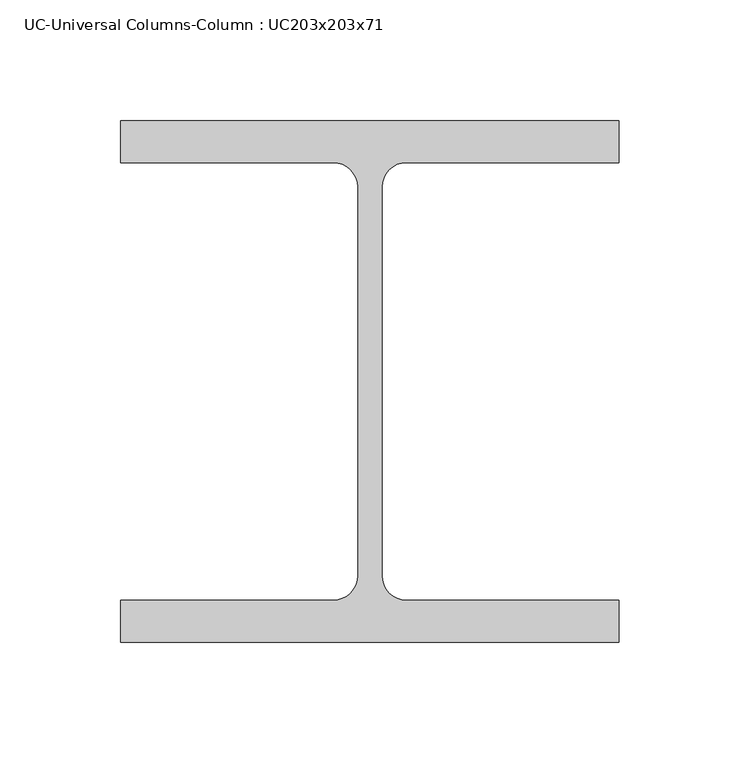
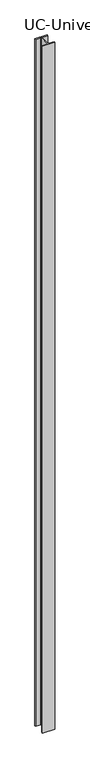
"""IFC4 building model written with IfcOpenShell, lengths in millimetres: column geometry, UC-Universal Columns-Column : UC203x203x71."""

import ifcopenshell
import ifcopenshell.guid

model = None  # the IFC model being written
_history = None  # IfcOwnerHistory: only IFC2X3 demands one
_inside = {}  # id of a spatial element -> (the spatial element, [elements in it])
_under = {}  # id of a project, library or spatial element -> (it, [spatial elements below it])
_declared = {}  # id of a project -> (the project, [libraries it declares])
_typed = {}  # id of a type object -> (the type object, [elements of that type])
_made_of = {}  # id of a material, layer set ... -> (it, [elements and type objects made of it])


def new_model(schema):
    """Start an empty IFC model of exactly this schema.

    Asked for "IFC4X3", IfcOpenShell would pick the latest addendum, in which some entities
    have other attributes; the version numbers below select the first issue.
    IFC2X3 requires an IfcOwnerHistory on every rooted entity: one is made here for all.
    """
    global model, _history
    if schema == "IFC4X3":
        model = ifcopenshell.file(schema_version=(4, 3, 0, 0))
    else:
        model = ifcopenshell.file(schema=schema)
    _inside.clear()
    _under.clear()
    _declared.clear()
    _typed.clear()
    _made_of.clear()
    _history = None
    if model.schema == "IFC2X3":
        org = make("IfcOrganization", Name="unknown")
        user = make(
            "IfcPersonAndOrganization",
            ThePerson=make("IfcPerson", FamilyName="unknown"),
            TheOrganization=org,
        )
        app = make(
            "IfcApplication",
            ApplicationDeveloper=org,
            Version="unknown",
            ApplicationFullName="unknown",
            ApplicationIdentifier="unknown",
        )
        _history = make(
            "IfcOwnerHistory",
            OwningUser=user,
            OwningApplication=app,
            ChangeAction="ADDED",
            CreationDate=0,
        )
    return model


def make(cls, **values):
    """One entity of the class cls with the attributes given. An attribute that is None is left unset."""
    return model.create_entity(
        cls, **{name: value for name, value in values.items() if value is not None}
    )


def rooted(cls, **values):
    """An entity with a GlobalId (a new one), such as an element, a storey or a relation."""
    return make(cls, GlobalId=ifcopenshell.guid.new(), OwnerHistory=_history, **values)


def si_unit(unit_type, name, prefix=None):
    """IfcSIUnit, for example si_unit("LENGTHUNIT", "METRE", prefix="MILLI")."""
    return make("IfcSIUnit", UnitType=unit_type, Prefix=prefix, Name=name)


def assignment(units):
    """IfcUnitAssignment: the units of a project."""
    return None if units is None else make("IfcUnitAssignment", Units=units)


def point(xyz):
    """IfcCartesianPoint."""
    return None if xyz is None else make("IfcCartesianPoint", Coordinates=xyz)


def direction(xyz):
    """IfcDirection."""
    return None if xyz is None else make("IfcDirection", DirectionRatios=xyz)


def frame(location, z_axis=None, x_axis=None):
    """IfcAxis2Placement3D, a coordinate frame: its origin and axes. An axis left out is left unset."""
    return make(
        "IfcAxis2Placement3D",
        Location=point(location),
        Axis=direction(z_axis),
        RefDirection=direction(x_axis),
    )


def frame_2d(location, x_axis=None):
    """IfcAxis2Placement2D, a coordinate frame in the plane: its origin and x axis."""
    return make(
        "IfcAxis2Placement2D", Location=point(location), RefDirection=direction(x_axis)
    )


def origin():
    """The frame at (0, 0, 0) with its axes left unset."""
    return frame((0.0, 0.0, 0.0))


def place(relative_to, where):
    """IfcLocalPlacement: puts the frame where relative to a parent placement (None: the world)."""
    return make(
        "IfcLocalPlacement", PlacementRelTo=relative_to, RelativePlacement=where
    )


def context(
    kind, dimensions, precision=None, world=None, true_north=None, identifier=None
):
    """IfcGeometricRepresentationContext, for example the 3D "Model" context."""
    return make(
        "IfcGeometricRepresentationContext",
        ContextIdentifier=identifier,
        ContextType=kind,
        CoordinateSpaceDimension=dimensions,
        Precision=precision,
        WorldCoordinateSystem=world,
        TrueNorth=true_north,
    )


def project(units=None, contexts=None):
    """IfcProject with its units and contexts."""
    return rooted(
        "IfcProject",
        Name="project",
        RepresentationContexts=contexts,
        UnitsInContext=assignment(units),
    )


def spatial(cls, under=None, at=None, **own):
    """A site, building, storey or space (cls), placed at a placement, below another one or the project."""
    s = rooted(cls, ObjectPlacement=at, **own)
    if under is not None:
        _under.setdefault(under.id(), (under, []))[1].append(s)
    return s


def polyline(points):
    """IfcPolyline through the points."""
    return make("IfcPolyline", Points=[point(p) for p in points])


def circle_curve(where, radius):
    """IfcCircle in the frame where."""
    return make("IfcCircle", Position=where, Radius=radius)


def trimmed(basis, trim1, trim2, sense, master):
    """IfcTrimmedCurve: the piece of a basis curve between two trims."""
    return make(
        "IfcTrimmedCurve",
        BasisCurve=basis,
        Trim1=trim1,
        Trim2=trim2,
        SenseAgreement=sense,
        MasterRepresentation=master,
    )


def segment(curve, same_sense, transition):
    """IfcCompositeCurveSegment."""
    return make(
        "IfcCompositeCurveSegment",
        Transition=transition,
        SameSense=same_sense,
        ParentCurve=curve,
    )


def composite_curve(segments, self_intersect=None):
    """IfcCompositeCurve: segments joined end to end."""
    return make("IfcCompositeCurve", Segments=segments, SelfIntersect=self_intersect)


def outline(outer, holes=None, kind="AREA"):
    """IfcArbitraryClosedProfileDef: a profile drawn as a closed curve; with holes, ...WithVoids."""
    if holes is None:
        return make("IfcArbitraryClosedProfileDef", ProfileType=kind, OuterCurve=outer)
    return make(
        "IfcArbitraryProfileDefWithVoids",
        ProfileType=kind,
        OuterCurve=outer,
        InnerCurves=holes,
    )


def extrude(swept, where, along, depth):
    """IfcExtrudedAreaSolid: the profile swept, set in the frame where, extruded along a direction by depth."""
    return make(
        "IfcExtrudedAreaSolid",
        SweptArea=swept,
        Position=where,
        ExtrudedDirection=direction(along),
        Depth=depth,
    )


def shape(context_of_items, identifier, shape_type, items):
    """IfcShapeRepresentation: the items that make up one representation, for example the "Body"."""
    return make(
        "IfcShapeRepresentation",
        ContextOfItems=context_of_items,
        RepresentationIdentifier=identifier,
        RepresentationType=shape_type,
        Items=items,
    )


def source(mapping_origin, context_of_items, identifier, shape_type, items):
    """IfcRepresentationMap: a shape defined once, which mapped items show again and again."""
    return make(
        "IfcRepresentationMap",
        MappingOrigin=mapping_origin,
        MappedRepresentation=shape(context_of_items, identifier, shape_type, items),
    )


def transform(
    local_origin,
    x_axis=None,
    y_axis=None,
    z_axis=None,
    scale=None,
    scale2=None,
    scale3=None,
    uniform=True,
):
    """IfcCartesianTransformationOperator3D, or its non-uniform kind. x_axis, y_axis, z_axis: its Axis1, 2, 3."""
    if uniform:
        return make(
            "IfcCartesianTransformationOperator3D",
            Axis1=direction(x_axis),
            Axis2=direction(y_axis),
            LocalOrigin=point(local_origin),
            Scale=scale,
            Axis3=direction(z_axis),
        )
    return make(
        "IfcCartesianTransformationOperator3DnonUniform",
        Axis1=direction(x_axis),
        Axis2=direction(y_axis),
        LocalOrigin=point(local_origin),
        Scale=scale,
        Axis3=direction(z_axis),
        Scale2=scale2,
        Scale3=scale3,
    )


def mapped(mapping_source, mapping_target):
    """IfcMappedItem: shows the shape of a source again, moved by a transform."""
    return make(
        "IfcMappedItem", MappingSource=mapping_source, MappingTarget=mapping_target
    )


def made_of(thing, what):
    """Note that an element or type object is made of a material, layer set ...; save() writes the relation."""
    if what is not None:
        _made_of.setdefault(what.id(), (what, []))[1].append(thing)
    return thing


def element(
    cls,
    number,
    at=None,
    inside=None,
    cuts=None,
    type_object=None,
    material=None,
    context=None,
    identifier="Body",
    shape_type=None,
    held_by="IfcProductDefinitionShape",
    body=None,
    shapes=None,
    **own,
):
    """One element of the class cls, such as IfcWall. Its Tag is "e" and its number.

    at: its placement. inside: the storey or other place that contains it. cuts: it is an
    opening in that element (IfcRelVoidsElement). A single representation is given by context,
    identifier, shape_type and body (its items); several are given by shapes. held_by: the class
    of the entity that holds the representations. save() writes the other relations.
    """
    e = rooted(cls, Tag="e%d" % number, ObjectPlacement=at, **own)
    if body is not None:
        shapes = [shape(context, identifier, shape_type, body)]
    if shapes is not None:
        e.Representation = make(held_by, Representations=shapes)
    if inside is not None:
        _inside.setdefault(inside.id(), (inside, []))[1].append(e)
    if cuts is not None:
        rooted(
            "IfcRelVoidsElement", RelatingBuildingElement=cuts, RelatedOpeningElement=e
        )
    if type_object is not None:
        _typed.setdefault(type_object.id(), (type_object, []))[1].append(e)
    return made_of(e, material)


def aggregate(whole, parts):
    """IfcRelAggregates: a whole, such as a stair, and the parts it consists of."""
    return rooted("IfcRelAggregates", RelatingObject=whole, RelatedObjects=parts)


def save(model, path):
    """Write the relations noted so far, then the file.

    IfcRelAggregates (storeys below a building ...), IfcRelContainedInSpatialStructure (elements
    in a storey), IfcRelDefinesByType, IfcRelAssociatesMaterial and IfcRelDeclares: one each for
    every whole, place, type object, material and project.
    """
    for whole, parts in _under.values():
        aggregate(whole, parts)
    for where, things in _inside.values():
        rooted(
            "IfcRelContainedInSpatialStructure",
            RelatedElements=things,
            RelatingStructure=where,
        )
    for kind, things in _typed.values():
        rooted("IfcRelDefinesByType", RelatedObjects=things, RelatingType=kind)
    for what, things in _made_of.values():
        rooted("IfcRelAssociatesMaterial", RelatedObjects=things, RelatingMaterial=what)
    for by, libraries in _declared.values():
        rooted("IfcRelDeclares", RelatingContext=by, RelatedDefinitions=libraries)
    model.write(path)


def uc_universal_columns_column_uc203x203x71_d5d84301(model_context):
    return source(origin(), model_context, "Body", "SweptSolid", [
        extrude(outline(composite_curve([segment(polyline([(103.2, 107.9), (103.2, 90.6), (15.2, 90.6)]), True, "CONTINUOUS"), segment(trimmed(circle_curve(frame_2d((15.2, 80.4)), 10.2), [point((15.2, 90.6))], [point((5.0, 80.4))], True, "CARTESIAN"), True, "CONTINUOUS"), segment(polyline([(5.0, 80.4), (5.0, -80.4)]), True, "CONTINUOUS"), segment(trimmed(circle_curve(frame_2d((15.2, -80.4)), 10.2), [point((5.0, -80.4))], [point((15.2, -90.6))], True, "CARTESIAN"), True, "CONTINUOUS"), segment(polyline([(15.2, -90.6), (103.2, -90.6), (103.2, -107.9), (-103.2, -107.9), (-103.2, -90.6), (-15.2, -90.6)]), True, "CONTINUOUS"), segment(trimmed(circle_curve(frame_2d((-15.2, -80.4)), 10.2), [point((-15.2, -90.6))], [point((-5.0, -80.4))], True, "CARTESIAN"), True, "CONTINUOUS"), segment(polyline([(-5.0, -80.4), (-5.0, 80.4)]), True, "CONTINUOUS"), segment(trimmed(circle_curve(frame_2d((-15.2, 80.4)), 10.2), [point((-5.0, 80.4))], [point((-15.2, 90.6))], True, "CARTESIAN"), True, "CONTINUOUS"), segment(polyline([(-15.2, 90.6), (-103.2, 90.6), (-103.2, 107.9), (103.2, 107.9)]), True, "CONTINUOUS")], self_intersect=False)), frame((0.0, 0.0, -450.0), z_axis=(0.0, 0.0, 1.0), x_axis=(1.0, 0.0, 0.0)), (0.0, 0.0, 1.0), 12150.0),
    ])


if __name__ == "__main__":
    model = new_model("IFC4")
    model_context = context("Model", 3, world=origin())
    ifc_project = project(units=[si_unit("LENGTHUNIT", "METRE", prefix="MILLI")], contexts=[model_context])
    site = spatial("IfcSite", under=ifc_project)
    building = spatial("IfcBuilding", under=site)
    placement = place(None, origin())
    uc_universal_columns_column_uc203x203x71_shape = uc_universal_columns_column_uc203x203x71_d5d84301(model_context)
    element("IfcColumn", 1, ObjectType="UC-Universal Columns-Column : UC203x203x71", at=placement, inside=building, context=model_context, shape_type="MappedRepresentation", body=[
        mapped(uc_universal_columns_column_uc203x203x71_shape, transform((0.0, 0.0, 0.0), x_axis=(1.0, 0.0, 0.0), y_axis=(0.0, 1.0, 0.0), z_axis=(0.0, 0.0, 1.0))),
    ])
    save(model, "model.ifc")
